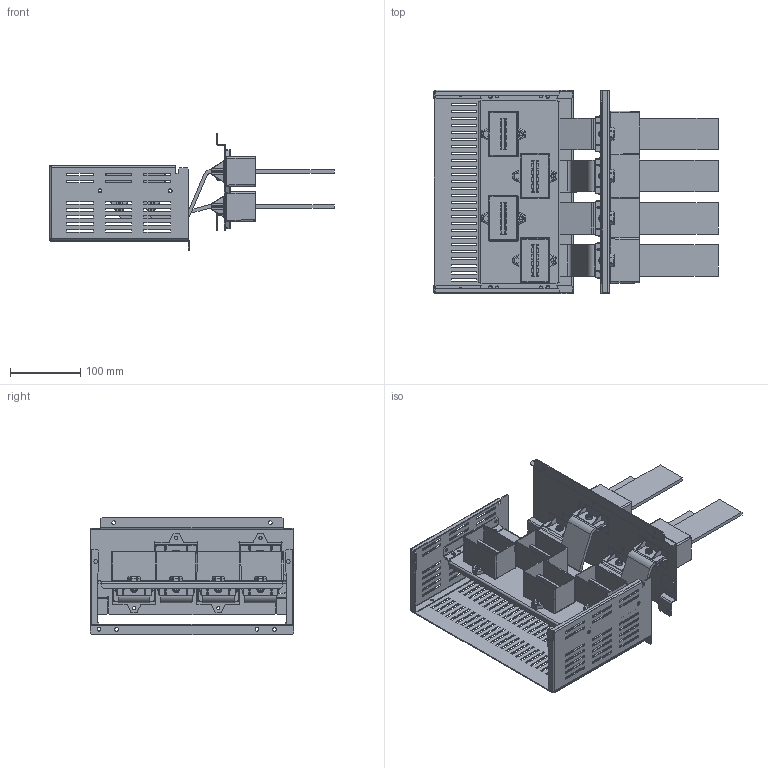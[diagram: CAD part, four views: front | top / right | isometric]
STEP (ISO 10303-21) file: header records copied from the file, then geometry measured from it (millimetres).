
FILE_DESCRIPTION(('CAx-IF Rec.Pracs.---Model Styling and Organization---1.2---2011-12-15','CAx-IF Rec.Pracs.---Geometric and Assembly Validation Properties---4.1---2014-06-16','CAx-IF Rec.Pracs.---PMI Polyline Presentation---2.0---2013-05-24'),'2;1');
FILE_NAME('R5M2W6MST3B.stp','2021-05-05T13:07:38+03:00',(''),(''),'STEP Interface 4.4 by CT CoreTechnologie','3D_Evolution4.4 by CT CoreTechnologie','');
FILE_SCHEMA(('AUTOMOTIVE_DESIGN { 1 0 10303 214 1 1 1 1 }'));
Length unit declared in the file: millimetre
Products named in the file (11): R5M2W6MST3B; V02.ÒÏÀ.08.0041.00.00.0_¤«ï ¨­áâàãªæ¨¨ ¯ «¥æ; V02.ÒÏÀ.08.0042.00.00.0_¤«ï ¨­áâàãªæ¨¨ ¡¥§ ¯ «ìæ; RB.1583.00.00.1_-02; RB.1458.00.00.0_-04; RB.1263.00.00.0_-00; RB.1263.00.00.0_-01; RB.1583.00.00.1_-03; RB.1217.00.00.0_-00; RB.1242.00.00.0_-03; RB.1410.00.00.1_-03
Assembly tree (27 placements, depth 2):
  R5M2W6MST3B
    V02.ÒÏÀ.08.0041.00.00.0_¤«ï ¨­áâàãªæ¨¨ ¯ «¥æ  x8
    V02.ÒÏÀ.08.0042.00.00.0_¤«ï ¨­áâàãªæ¨¨ ¡¥§ ¯ «ìæ  x8
    RB.1583.00.00.1_-02  x2
    RB.1458.00.00.0_-04
    RB.1263.00.00.0_-00
    RB.1263.00.00.0_-01
    RB.1583.00.00.1_-03  x2
    RB.1217.00.00.0_-00  x2
    RB.1242.00.00.0_-03
    RB.1410.00.00.1_-03
Bounding box: 405 x 290 x 166.75 mm (x, y, z)
Surface area: 744590.3 mm2 (no closed solid volume)
Topology: 0 solids, 27 shells, 4020 faces, 10408 edges, 6418 vertices
Faces by surface type: plane 1790, bspline 1216, cylinder 1014
Entity records: 52942 total; most frequent: CARTESIAN_POINT 18639, ORIENTED_EDGE 7118, DIRECTION 6534, EDGE_CURVE 3559, VECTOR 2728, LINE 2728, VERTEX_POINT 2294, AXIS2_PLACEMENT_3D 1903
